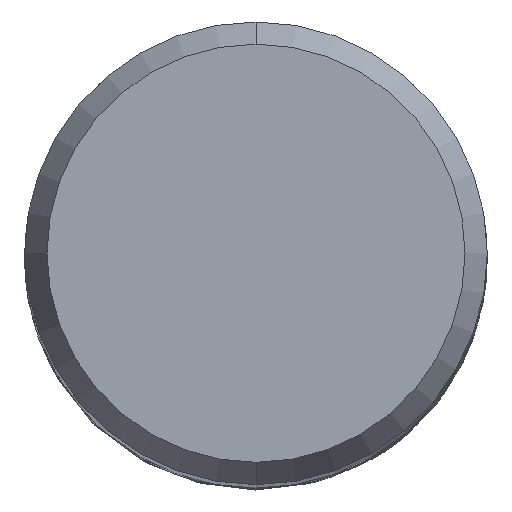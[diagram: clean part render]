
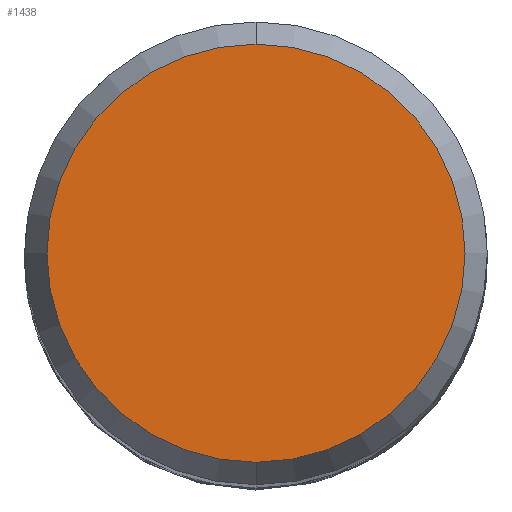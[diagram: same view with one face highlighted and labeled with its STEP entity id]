
A CAD part, top view. The second image highlights one B-rep face of the part: STEP entity #1438.
In plain terms, the highlighted planar face has unit normal (0, 0, 1).
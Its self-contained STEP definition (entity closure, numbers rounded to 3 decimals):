
#704=VERTEX_POINT('',#1930);
#948=EDGE_CURVE('',#704,#1310,#2194,.T.);
#1310=VERTEX_POINT('',#2584);
#1438=ADVANCED_FACE('',(#2721),#2722,.T.);
#1480=EDGE_CURVE('',#1310,#704,#2767,.T.);
#1930=CARTESIAN_POINT('',(0.0,5.423,0.0));
#2194=CIRCLE('',#7183,5.423);
#2584=CARTESIAN_POINT('',(0.,-5.423,0.0));
#2721=FACE_OUTER_BOUND('',#13413,.T.);
#2722=PLANE('',#13414);
#2767=CIRCLE('',#14040,5.423);
#7183=AXIS2_PLACEMENT_3D('',#19057,#19058,#19059);
#13413=EDGE_LOOP('',(#19453,#19454));
#13414=AXIS2_PLACEMENT_3D('',#19455,#19456,#19457);
#14040=AXIS2_PLACEMENT_3D('',#19499,#19500,#19501);
#19057=CARTESIAN_POINT('',(0.0,0.0,0.0));
#19058=DIRECTION('',(0.0,0.0,-1.0));
#19059=DIRECTION('',(0.0,1.0,0.0));
#19453=ORIENTED_EDGE('',*,*,#948,.F.);
#19454=ORIENTED_EDGE('',*,*,#1480,.F.);
#19455=CARTESIAN_POINT('',(0.0,2.711,0.0));
#19456=DIRECTION('',(-0.0,0.0,1.0));
#19457=DIRECTION('',(0.0,-1.0,0.0));
#19499=CARTESIAN_POINT('',(0.0,0.0,0.0));
#19500=DIRECTION('',(0.0,0.0,-1.0));
#19501=DIRECTION('',(0.0,1.0,0.0));
